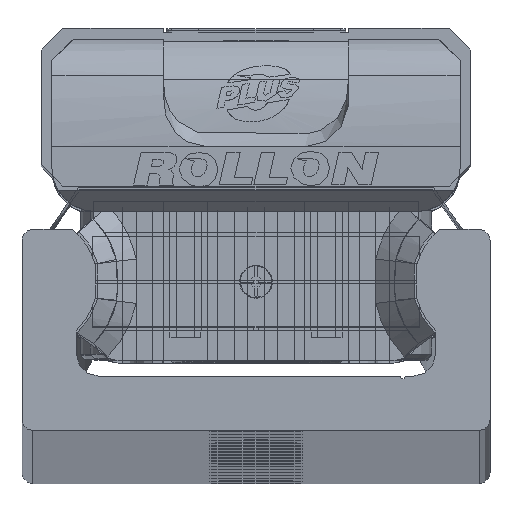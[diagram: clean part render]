
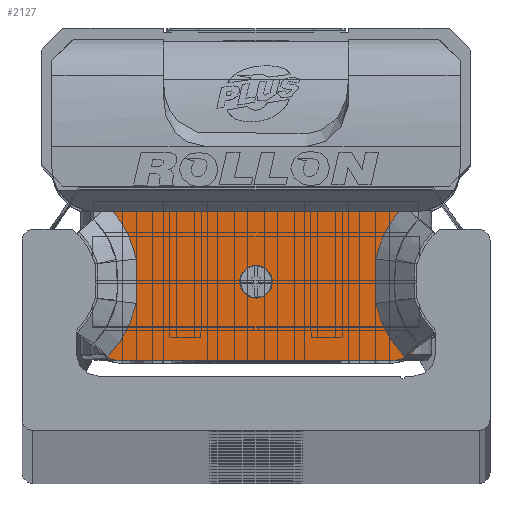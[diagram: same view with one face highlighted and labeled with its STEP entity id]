
A CAD part, top view. The second image highlights one B-rep face of the part: STEP entity #2127.
In plain terms, the highlighted planar face has unit normal (0, 0, 1) as drawn and (0, 0, -1) by its records, which use the part's own axes.
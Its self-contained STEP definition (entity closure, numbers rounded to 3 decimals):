
#2127 = ADVANCED_FACE( '', ( #4516, #4517 ), #4518, .F. );
#4516 = FACE_BOUND( '', #7089, .T. );
#4517 = FACE_OUTER_BOUND( '', #7090, .T. );
#4518 = PLANE( '', #7091 );
#7089 = EDGE_LOOP( '', ( #12795 ) );
#7090 = EDGE_LOOP( '', ( #12796, #12797, #12798, #12799, #12800, #12801, #12802, #12803, #12804, #12805, #12806, #12807 ) );
#7091 = AXIS2_PLACEMENT_3D( '', #12808, #12809, #12810 );
#12795 = ORIENTED_EDGE( '', *, *, #15077, .T. );
#12796 = ORIENTED_EDGE( '', *, *, #14092, .T. );
#12797 = ORIENTED_EDGE( '', *, *, #15643, .F. );
#12798 = ORIENTED_EDGE( '', *, *, #14653, .T. );
#12799 = ORIENTED_EDGE( '', *, *, #15264, .F. );
#12800 = ORIENTED_EDGE( '', *, *, #15135, .T. );
#12801 = ORIENTED_EDGE( '', *, *, #15644, .T. );
#12802 = ORIENTED_EDGE( '', *, *, #15093, .T. );
#12803 = ORIENTED_EDGE( '', *, *, #13884, .T. );
#12804 = ORIENTED_EDGE( '', *, *, #15393, .T. );
#12805 = ORIENTED_EDGE( '', *, *, #13552, .T. );
#12806 = ORIENTED_EDGE( '', *, *, #14639, .T. );
#12807 = ORIENTED_EDGE( '', *, *, #15368, .T. );
#12808 = CARTESIAN_POINT( '', ( 14.9, 7.35, -13.25 ) );
#12809 = DIRECTION( '', ( 0., 0., 1. ) );
#12810 = DIRECTION( '', ( 1., 0., 0. ) );
#13552 = EDGE_CURVE( '', #16026, #16032, #16034, .T. );
#13884 = EDGE_CURVE( '', #16611, #16608, #16612, .T. );
#14092 = EDGE_CURVE( '', #16963, #16329, #16964, .T. );
#14639 = EDGE_CURVE( '', #16032, #17814, #17816, .T. );
#14653 = EDGE_CURVE( '', #17838, #17836, #17839, .T. );
#15077 = EDGE_CURVE( '', #18425, #18425, #18426, .T. );
#15093 = EDGE_CURVE( '', #18447, #16611, #18448, .T. );
#15135 = EDGE_CURVE( '', #16955, #18503, #18505, .T. );
#15264 = EDGE_CURVE( '', #16955, #17836, #18686, .T. );
#15368 = EDGE_CURVE( '', #17814, #16963, #18815, .T. );
#15393 = EDGE_CURVE( '', #16608, #16026, #18845, .T. );
#15643 = EDGE_CURVE( '', #17838, #16329, #19141, .T. );
#15644 = EDGE_CURVE( '', #18503, #18447, #19142, .T. );
#16026 = VERTEX_POINT( '', #19600 );
#16032 = VERTEX_POINT( '', #19613 );
#16034 = B_SPLINE_CURVE_WITH_KNOTS( '', 2, ( #19616, #19617, #19618, #19619, #19620 ), .UNSPECIFIED., .F., .F., ( 3, 2, 3 ), ( 0.133, 0.5, 1. ), .UNSPECIFIED. );
#16329 = VERTEX_POINT( '', #20073 );
#16608 = VERTEX_POINT( '', #20437 );
#16611 = VERTEX_POINT( '', #20443 );
#16612 = B_SPLINE_CURVE_WITH_KNOTS( '', 2, ( #20444, #20445, #20446, #20447, #20448 ), .UNSPECIFIED., .F., .F., ( 3, 2, 3 ), ( 0., 0.5, 0.868 ), .UNSPECIFIED. );
#16955 = VERTEX_POINT( '', #20874 );
#16963 = VERTEX_POINT( '', #20892 );
#16964 = B_SPLINE_CURVE_WITH_KNOTS( '', 1, ( #20893, #20894 ), .UNSPECIFIED., .F., .F., ( 2, 2 ), ( 0., 1. ), .UNSPECIFIED. );
#17814 = VERTEX_POINT( '', #22044 );
#17816 = B_SPLINE_CURVE_WITH_KNOTS( '', 2, ( #22047, #22048, #22049 ), .UNSPECIFIED., .F., .F., ( 3, 3 ), ( 0., 1. ), .UNSPECIFIED. );
#17836 = VERTEX_POINT( '', #22077 );
#17838 = VERTEX_POINT( '', #22080 );
#17839 = LINE( '', #22081, #22082 );
#18425 = VERTEX_POINT( '', #23015 );
#18426 = CIRCLE( '', #23016, 1.5 );
#18447 = VERTEX_POINT( '', #23039 );
#18448 = B_SPLINE_CURVE_WITH_KNOTS( '', 2, ( #23040, #23041, #23042 ), .UNSPECIFIED., .F., .F., ( 3, 3 ), ( 0., 1. ), .UNSPECIFIED. );
#18503 = VERTEX_POINT( '', #23133 );
#18505 = B_SPLINE_CURVE_WITH_KNOTS( '', 1, ( #23136, #23137 ), .UNSPECIFIED., .F., .F., ( 2, 2 ), ( 0., 1. ), .UNSPECIFIED. );
#18686 = CIRCLE( '', #23386, 2.5 );
#18815 = B_SPLINE_CURVE_WITH_KNOTS( '', 2, ( #23572, #23573, #23574, #23575, #23576 ), .UNSPECIFIED., .F., .F., ( 3, 2, 3 ), ( 0., 0.5, 1. ), .UNSPECIFIED. );
#18845 = LINE( '', #23616, #23617 );
#19141 = CIRCLE( '', #23988, 2.5 );
#19142 = B_SPLINE_CURVE_WITH_KNOTS( '', 2, ( #23989, #23990, #23991, #23992, #23993 ), .UNSPECIFIED., .F., .F., ( 3, 2, 3 ), ( 0., 0.5, 1. ), .UNSPECIFIED. );
#19600 = CARTESIAN_POINT( '', ( 13.12, 6.4, -13.25 ) );
#19613 = CARTESIAN_POINT( '', ( 11.012, 2.045, -13.25 ) );
#19616 = CARTESIAN_POINT( '', ( 13.119, 6.4, -13.25 ) );
#19617 = CARTESIAN_POINT( '', ( 12.459, 5.608, -13.25 ) );
#19618 = CARTESIAN_POINT( '', ( 11.968, 4.684, -13.25 ) );
#19619 = CARTESIAN_POINT( '', ( 11.301, 3.427, -13.25 ) );
#19620 = CARTESIAN_POINT( '', ( 11.012, 2.045, -13.25 ) );
#20073 = CARTESIAN_POINT( '', ( 14.906, -5.717, -13.25 ) );
#20437 = CARTESIAN_POINT( '', ( -13.119, 6.4, -13.25 ) );
#20443 = CARTESIAN_POINT( '', ( -11.012, 2.045, -13.25 ) );
#20444 = CARTESIAN_POINT( '', ( -11.012, 2.045, -13.25 ) );
#20445 = CARTESIAN_POINT( '', ( -11.302, 3.432, -13.25 ) );
#20446 = CARTESIAN_POINT( '', ( -11.967, 4.685, -13.25 ) );
#20447 = CARTESIAN_POINT( '', ( -12.456, 5.606, -13.25 ) );
#20448 = CARTESIAN_POINT( '', ( -13.119, 6.4, -13.25 ) );
#20874 = CARTESIAN_POINT( '', ( -14.904, -5.718, -13.25 ) );
#20892 = CARTESIAN_POINT( '', ( 13.628, -6.965, -13.25 ) );
#20893 = CARTESIAN_POINT( '', ( 13.628, -6.965, -13.25 ) );
#20894 = CARTESIAN_POINT( '', ( 14.9, -5.728, -13.25 ) );
#22044 = CARTESIAN_POINT( '', ( 11.012, -2.045, -13.25 ) );
#22047 = CARTESIAN_POINT( '', ( 11.012, 2.045, -13.25 ) );
#22048 = CARTESIAN_POINT( '', ( 10.888, 0., -13.25 ) );
#22049 = CARTESIAN_POINT( '', ( 11.012, -2.045, -13.25 ) );
#22077 = CARTESIAN_POINT( '', ( -12.58, -7.3, -13.25 ) );
#22080 = CARTESIAN_POINT( '', ( 12.58, -7.3, -13.25 ) );
#22081 = CARTESIAN_POINT( '', ( 12.58, -7.3, -13.25 ) );
#22082 = VECTOR( '', #25911, 1000. );
#23015 = CARTESIAN_POINT( '', ( 1.5, -0.05, -13.25 ) );
#23016 = AXIS2_PLACEMENT_3D( '', #26414, #26415, #26416 );
#23039 = CARTESIAN_POINT( '', ( -11.012, -2.045, -13.25 ) );
#23040 = CARTESIAN_POINT( '', ( -11.012, -2.045, -13.25 ) );
#23041 = CARTESIAN_POINT( '', ( -10.888, 0., -13.25 ) );
#23042 = CARTESIAN_POINT( '', ( -11.012, 2.045, -13.25 ) );
#23133 = CARTESIAN_POINT( '', ( -13.628, -6.965, -13.25 ) );
#23136 = CARTESIAN_POINT( '', ( -14.915, -5.713, -13.25 ) );
#23137 = CARTESIAN_POINT( '', ( -13.628, -6.965, -13.25 ) );
#23386 = AXIS2_PLACEMENT_3D( '', #26674, #26675, #26676 );
#23572 = CARTESIAN_POINT( '', ( 11.012, -2.045, -13.25 ) );
#23573 = CARTESIAN_POINT( '', ( 11.301, -3.43, -13.25 ) );
#23574 = CARTESIAN_POINT( '', ( 11.972, -4.69, -13.25 ) );
#23575 = CARTESIAN_POINT( '', ( 12.642, -5.95, -13.25 ) );
#23576 = CARTESIAN_POINT( '', ( 13.628, -6.965, -13.25 ) );
#23616 = CARTESIAN_POINT( '', ( 14.9, 6.4, -13.25 ) );
#23617 = VECTOR( '', #26808, 1000. );
#23988 = AXIS2_PLACEMENT_3D( '', #26992, #26993, #26994 );
#23989 = CARTESIAN_POINT( '', ( -13.628, -6.965, -13.25 ) );
#23990 = CARTESIAN_POINT( '', ( -12.638, -5.946, -13.25 ) );
#23991 = CARTESIAN_POINT( '', ( -11.97, -4.691, -13.25 ) );
#23992 = CARTESIAN_POINT( '', ( -11.303, -3.437, -13.25 ) );
#23993 = CARTESIAN_POINT( '', ( -11.012, -2.045, -13.25 ) );
#25911 = DIRECTION( '', ( -1., 0., 0. ) );
#26414 = CARTESIAN_POINT( '', ( 0., -0.05, -13.25 ) );
#26415 = DIRECTION( '', ( 0., 0., 1. ) );
#26416 = DIRECTION( '', ( 1., 0., 0. ) );
#26674 = CARTESIAN_POINT( '', ( -12.58, -4.8, -13.25 ) );
#26675 = DIRECTION( '', ( 0., 0., 1. ) );
#26676 = DIRECTION( '', ( 1., 0., 0. ) );
#26808 = DIRECTION( '', ( 1., 0., 0. ) );
#26992 = CARTESIAN_POINT( '', ( 12.58, -4.8, -13.25 ) );
#26993 = DIRECTION( '', ( 0., 0., 1. ) );
#26994 = DIRECTION( '', ( 1., 0., 0. ) );
